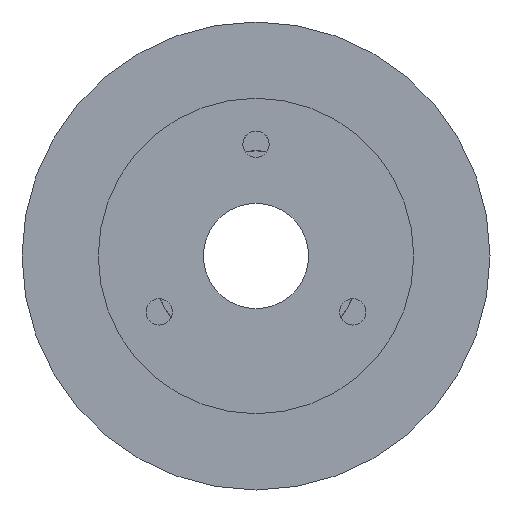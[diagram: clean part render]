
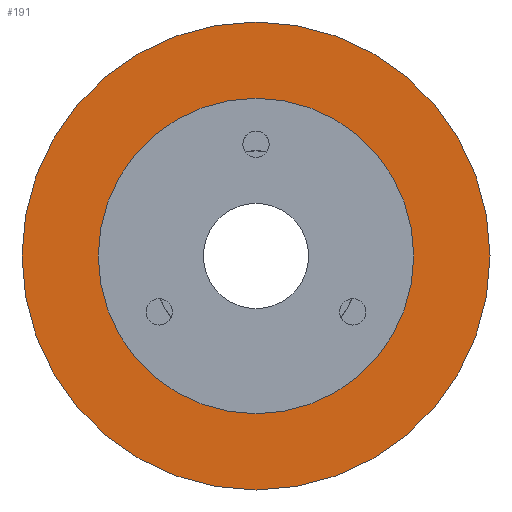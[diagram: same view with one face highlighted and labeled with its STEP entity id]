
A CAD part, front view. The second image highlights one B-rep face of the part: STEP entity #191.
In plain terms, the highlighted planar face has unit normal (0, -1, 0).
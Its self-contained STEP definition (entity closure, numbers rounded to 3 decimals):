
#33 = EDGE_CURVE ( 'NONE', #34, #35, #459, .T. ) ;
#34 = VERTEX_POINT ( 'NONE', #374 ) ;
#35 = VERTEX_POINT ( 'NONE', #373 ) ;
#88 = EDGE_CURVE ( 'NONE', #134, #89, #574, .T. ) ;
#89 = VERTEX_POINT ( 'NONE', #569 ) ;
#134 = VERTEX_POINT ( 'NONE', #715 ) ;
#191 = ADVANCED_FACE ( 'NONE', ( #773, #809 ), #807, .F. ) ;
#199 = EDGE_CURVE ( 'NONE', #35, #34, #822, .T. ) ;
#227 = EDGE_LOOP ( 'NONE', ( #228, #230 ) ) ;
#228 = ORIENTED_EDGE ( 'NONE', *, *, #229, .F. ) ;
#229 = EDGE_CURVE ( 'NONE', #89, #134, #776, .T. ) ;
#230 = ORIENTED_EDGE ( 'NONE', *, *, #88, .F. ) ;
#231 = EDGE_LOOP ( 'NONE', ( #247, #248 ) ) ;
#247 = ORIENTED_EDGE ( 'NONE', *, *, #199, .T. ) ;
#248 = ORIENTED_EDGE ( 'NONE', *, *, #33, .T. ) ;
#373 = CARTESIAN_POINT ( 'NONE',  ( 0., 7.3, -6. ) ) ;
#374 = CARTESIAN_POINT ( 'NONE',  ( 0., 7.3, 6. ) ) ;
#375 = DIRECTION ( 'NONE',  ( 0., 0., 1. ) ) ;
#456 = DIRECTION ( 'NONE',  ( 0., 1., 0. ) ) ;
#457 = CARTESIAN_POINT ( 'NONE',  ( 0., 7.3, 0. ) ) ;
#458 = AXIS2_PLACEMENT_3D ( 'NONE', #457, #456, #375 ) ;
#459 = CIRCLE ( 'NONE', #458, 6. ) ;
#569 = CARTESIAN_POINT ( 'NONE',  ( 0., 7.3, -8.9 ) ) ;
#570 = DIRECTION ( 'NONE',  ( 0., 0., 1. ) ) ;
#571 = DIRECTION ( 'NONE',  ( 0., 1., 0. ) ) ;
#572 = CARTESIAN_POINT ( 'NONE',  ( 0., 7.3, 0. ) ) ;
#573 = AXIS2_PLACEMENT_3D ( 'NONE', #572, #571, #570 ) ;
#574 = CIRCLE ( 'NONE', #573, 8.9 ) ;
#715 = CARTESIAN_POINT ( 'NONE',  ( 0., 7.3, 8.9 ) ) ;
#744 = CARTESIAN_POINT ( 'NONE',  ( 0., 7.3, 0. ) ) ;
#766 = DIRECTION ( 'NONE',  ( 0., 0., 1. ) ) ;
#767 = DIRECTION ( 'NONE',  ( 0., 1., 0. ) ) ;
#768 = CARTESIAN_POINT ( 'NONE',  ( 0., 7.3, 0. ) ) ;
#769 = AXIS2_PLACEMENT_3D ( 'NONE', #768, #767, #766 ) ;
#773 = FACE_OUTER_BOUND ( 'NONE', #227, .T. ) ;
#776 = CIRCLE ( 'NONE', #769, 8.9 ) ;
#807 = PLANE ( 'NONE',  #814 ) ;
#808 = CARTESIAN_POINT ( 'NONE',  ( 0., 7.3, 0. ) ) ;
#809 = FACE_BOUND ( 'NONE', #231, .T. ) ;
#812 = DIRECTION ( 'NONE',  ( 0., 0., 1. ) ) ;
#813 = DIRECTION ( 'NONE',  ( 0., 1., 0. ) ) ;
#814 = AXIS2_PLACEMENT_3D ( 'NONE', #808, #813, #812 ) ;
#819 = DIRECTION ( 'NONE',  ( 0., 0., 1. ) ) ;
#820 = DIRECTION ( 'NONE',  ( 0., 1., 0. ) ) ;
#821 = AXIS2_PLACEMENT_3D ( 'NONE', #744, #820, #819 ) ;
#822 = CIRCLE ( 'NONE', #821, 6. ) ;
